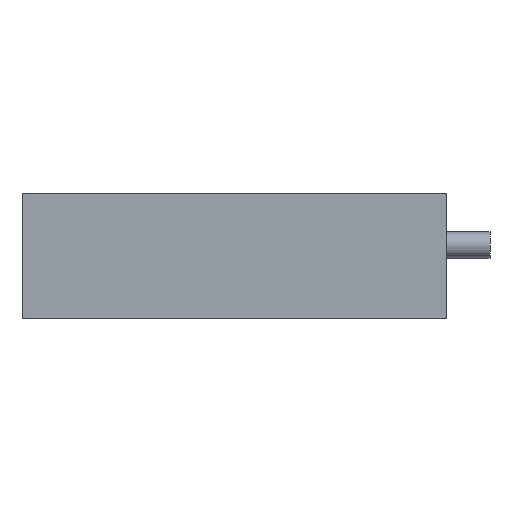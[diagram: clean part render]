
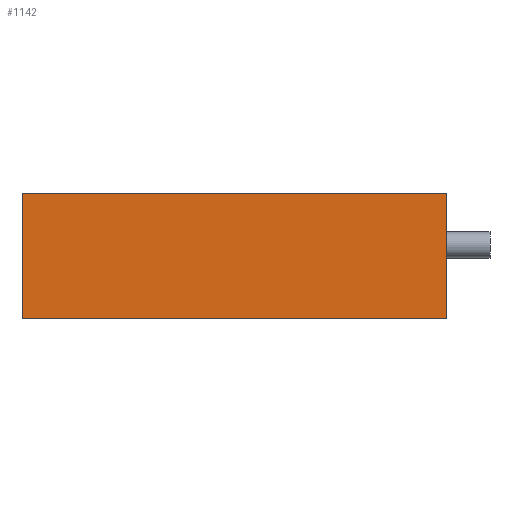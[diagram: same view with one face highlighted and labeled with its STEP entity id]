
A CAD part, left-side view. The second image highlights one B-rep face of the part: STEP entity #1142.
In plain terms, the highlighted planar face has unit normal (-1, 0, 0).
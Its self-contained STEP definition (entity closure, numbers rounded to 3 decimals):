
#55 = CARTESIAN_POINT ( 'NONE',  ( 0., 0., 0. ) ) ;
#566 = EDGE_LOOP ( 'NONE', ( #6690, #9261, #4409, #8177 ) ) ;
#629 = VERTEX_POINT ( 'NONE', #6193 ) ;
#644 = VERTEX_POINT ( 'NONE', #4067 ) ;
#662 = VECTOR ( 'NONE', #1489, 1000. ) ;
#1002 = LINE ( 'NONE', #55, #9064 ) ;
#1142 = ADVANCED_FACE ( 'NONE', ( #3519 ), #6572, .F. ) ;
#1489 = DIRECTION ( 'NONE',  ( 0., -1., 0. ) ) ;
#1580 = VECTOR ( 'NONE', #6258, 1000. ) ;
#2003 = DIRECTION ( 'NONE',  ( 0., 0., -1. ) ) ;
#2431 = CARTESIAN_POINT ( 'NONE',  ( 0., 0., 5.7 ) ) ;
#2745 = EDGE_CURVE ( 'NONE', #4789, #9250, #5284, .T. ) ;
#2960 = CARTESIAN_POINT ( 'NONE',  ( 0., 19.3, 5.7 ) ) ;
#3519 = FACE_OUTER_BOUND ( 'NONE', #566, .T. ) ;
#3724 = DIRECTION ( 'NONE',  ( 0., 0., -1. ) ) ;
#3899 = LINE ( 'NONE', #2960, #7570 ) ;
#4067 = CARTESIAN_POINT ( 'NONE',  ( 0., 0., 0. ) ) ;
#4337 = EDGE_CURVE ( 'NONE', #629, #644, #1002, .T. ) ;
#4409 = ORIENTED_EDGE ( 'NONE', *, *, #2745, .F. ) ;
#4525 = CARTESIAN_POINT ( 'NONE',  ( 0., 0., 5.7 ) ) ;
#4662 = DIRECTION ( 'NONE',  ( 1., 0., 0. ) ) ;
#4789 = VERTEX_POINT ( 'NONE', #7309 ) ;
#5284 = LINE ( 'NONE', #2431, #662 ) ;
#5624 = CARTESIAN_POINT ( 'NONE',  ( 0., 0., 5.7 ) ) ;
#6193 = CARTESIAN_POINT ( 'NONE',  ( 0., 19.3, 0. ) ) ;
#6258 = DIRECTION ( 'NONE',  ( 0., 0., -1. ) ) ;
#6352 = EDGE_CURVE ( 'NONE', #9250, #644, #8172, .T. ) ;
#6564 = EDGE_CURVE ( 'NONE', #4789, #629, #3899, .T. ) ;
#6572 = PLANE ( 'NONE',  #8561 ) ;
#6690 = ORIENTED_EDGE ( 'NONE', *, *, #4337, .T. ) ;
#7215 = CARTESIAN_POINT ( 'NONE',  ( 0., 0., 5.7 ) ) ;
#7309 = CARTESIAN_POINT ( 'NONE',  ( 0., 19.3, 5.7 ) ) ;
#7570 = VECTOR ( 'NONE', #2003, 1000. ) ;
#8172 = LINE ( 'NONE', #7215, #1580 ) ;
#8177 = ORIENTED_EDGE ( 'NONE', *, *, #6564, .T. ) ;
#8397 = DIRECTION ( 'NONE',  ( 0., -1., 0. ) ) ;
#8561 = AXIS2_PLACEMENT_3D ( 'NONE', #5624, #4662, #3724 ) ;
#9064 = VECTOR ( 'NONE', #8397, 1000. ) ;
#9250 = VERTEX_POINT ( 'NONE', #4525 ) ;
#9261 = ORIENTED_EDGE ( 'NONE', *, *, #6352, .F. ) ;
